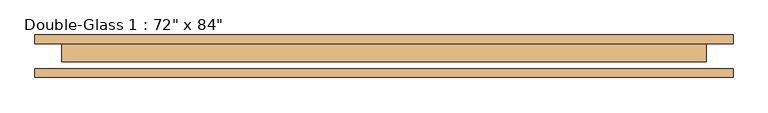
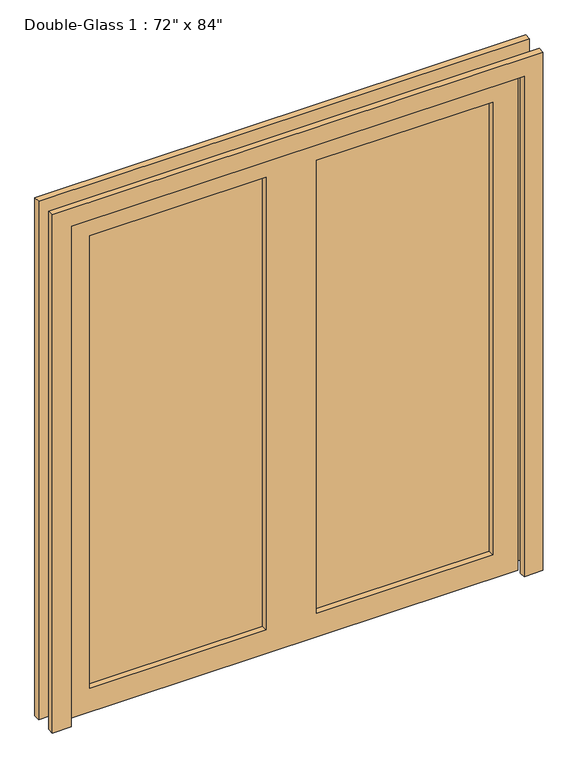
"""IFC4 building model written with IfcOpenShell, lengths in millimetres: door geometry."""

from ifc_helpers import new_model, si_unit, frame, origin, place, context, project, spatial, polyline, outline, extrude, source, transform, mapped, element, save


def door_b569b102(model_context):
    return source(origin(), model_context, "Body", "SweptSolid", [
        extrude(outline(polyline([(0.0, 990.6), (2209.8, 990.6), (2209.8, -990.6), (0.0, -990.6), (0.0, -914.4), (2133.6, -914.4), (2133.6, 914.4), (0.0, 914.4), (0.0, 990.6)])), frame((0.0, -58.01875, 0.0), z_axis=(0.0, 1.0, 0.0), x_axis=(0.0, 0.0, 1.0)), (0.0, 0.0, 1.0), 25.4),
        extrude(outline(polyline([(2133.6, 914.4), (0.0, 914.4), (0.0, 990.6), (2209.8, 990.6), (2209.8, -990.6), (0.0, -990.6), (0.0, -914.4), (2133.6, -914.4), (2133.6, 914.4)])), frame((0.0, 37.38125, 0.0), z_axis=(0.0, 1.0, 0.0), x_axis=(0.0, 0.0, 1.0)), (0.0, 0.0, 1.0), 25.4),
        extrude(outline(polyline([(812.8, 11.98125), (101.6, 11.98125), (101.6, 19.125), (812.8, 19.125), (812.8, 11.98125)])), frame((0.0, 0.0, 101.6), z_axis=(0.0, 0.0, 1.0), x_axis=(1.0, 0.0, 0.0)), (0.0, 0.0, 1.0), 1930.4),
        extrude(outline(polyline([(-101.6, 11.98125), (-812.8, 11.98125), (-812.8, 19.125), (-101.6, 19.125), (-101.6, 11.98125)])), frame((0.0, 0.0, 101.6), z_axis=(0.0, 0.0, 1.0), x_axis=(1.0, 0.0, 0.0)), (0.0, 0.0, 1.0), 1930.4),
        extrude(outline(polyline([(2133.6, 914.4), (2133.6, -914.4), (0.0, -914.4), (0.0, 914.4), (2133.6, 914.4)]), holes=[polyline([(2032.0, -101.6), (101.6, -101.6), (101.6, -812.8), (2032.0, -812.8), (2032.0, -101.6)]), polyline([(2032.0, 812.8), (101.6, 812.8), (101.6, 101.6), (2032.0, 101.6), (2032.0, 812.8)])]), frame((0.0, -13.41875, 0.0), z_axis=(0.0, 1.0, 0.0), x_axis=(0.0, 0.0, 1.0)), (0.0, 0.0, 1.0), 50.8),
    ])


if __name__ == "__main__":
    model = new_model("IFC4")
    model_context = context("Model", 3, world=origin())
    ifc_project = project(units=[si_unit("LENGTHUNIT", "METRE", prefix="MILLI")], contexts=[model_context])
    site = spatial("IfcSite", under=ifc_project)
    building = spatial("IfcBuilding", under=site)
    placement = place(None, origin())
    door_shape = door_b569b102(model_context)
    element("IfcDoor", 1, ObjectType="Double-Glass 1 : 72\" x 84\"", at=placement, inside=building, context=model_context, shape_type="MappedRepresentation", body=[
        mapped(door_shape, transform((0.0, 0.0, 0.0), x_axis=(1.0, 0.0, 0.0), y_axis=(0.0, 1.0, 0.0), z_axis=(0.0, 0.0, 1.0))),
    ])
    save(model, "model.ifc")
